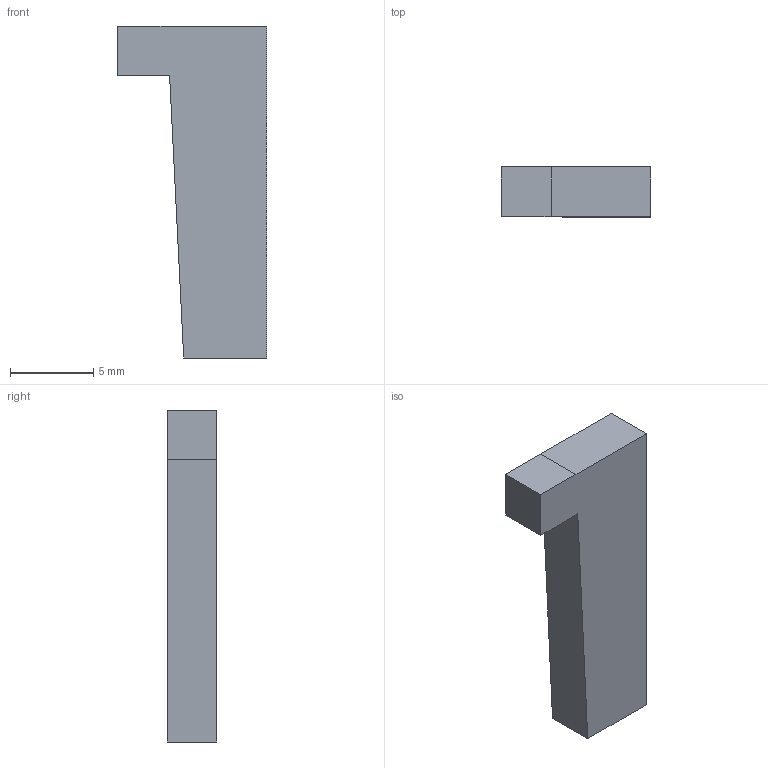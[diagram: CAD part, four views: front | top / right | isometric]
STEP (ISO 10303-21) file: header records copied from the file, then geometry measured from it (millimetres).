
FILE_DESCRIPTION(('FreeCAD Model'),'2;1');
FILE_NAME('Open CASCADE Shape Model','2024-06-26T11:40:26',('FreeCAD'),( 'FreeCAD'),'Open CASCADE STEP processor 7.6','FreeCAD','Unknown');
FILE_SCHEMA(('AUTOMOTIVE_DESIGN { 1 0 10303 214 1 1 1 1 }'));
Length unit declared in the file: millimetre
Products named in the file (1): Open CASCADE STEP translator 7.6 11
Bounding box: 9 x 3 x 20 mm (x, y, z)
Volume: 357.7 mm3; surface area: 410 mm2
Topology: 1 solids, 1 shells, 9 faces, 21 edges, 14 vertices
Faces by surface type: plane 9
Entity records: 265 total; most frequent: CARTESIAN_POINT 45, ORIENTED_EDGE 42, DIRECTION 41, EDGE_CURVE 21, LINE 21, VECTOR 21, VERTEX_POINT 14, AXIS2_PLACEMENT_3D 10
